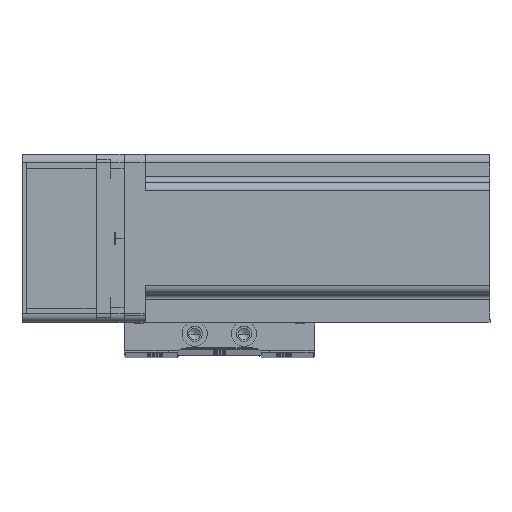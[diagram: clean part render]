
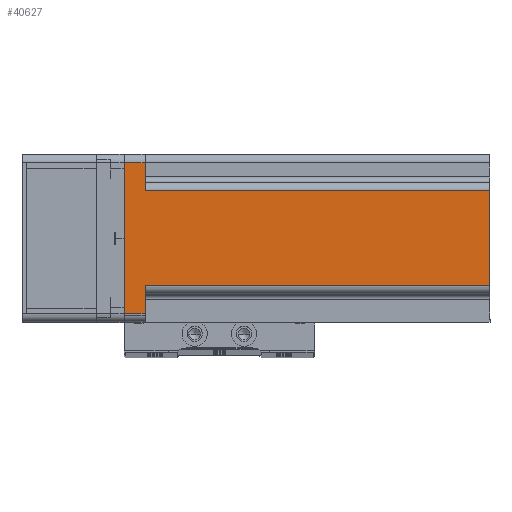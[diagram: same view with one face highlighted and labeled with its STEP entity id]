
A CAD part, top view. The second image highlights one B-rep face of the part: STEP entity #40627.
In plain terms, the highlighted planar face has unit normal (0, 0, 1) as drawn and (0, 1, 0) by its records, which use the part's own axes.
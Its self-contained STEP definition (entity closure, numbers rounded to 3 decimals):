
#2022 = VERTEX_POINT ( 'NONE', #30523 ) ;
#2750 = CARTESIAN_POINT ( 'NONE',  ( 17., 30., 7.5 ) ) ;
#2868 = VERTEX_POINT ( 'NONE', #7440 ) ;
#3265 = VECTOR ( 'NONE', #10019, 1000. ) ;
#3769 = ORIENTED_EDGE ( 'NONE', *, *, #14289, .T. ) ;
#3771 = VECTOR ( 'NONE', #37916, 1000. ) ;
#4331 = CARTESIAN_POINT ( 'NONE',  ( 17., 30., 130.7 ) ) ;
#4347 = DIRECTION ( 'NONE',  ( 0., 0., -1. ) ) ;
#4961 = VECTOR ( 'NONE', #45936, 1000. ) ;
#5092 = EDGE_CURVE ( 'NONE', #2868, #8271, #51672, .T. ) ;
#5146 = LINE ( 'NONE', #29338, #3771 ) ;
#5405 = CARTESIAN_POINT ( 'NONE',  ( -27., 30., 7.5 ) ) ;
#6704 = CARTESIAN_POINT ( 'NONE',  ( 30., 30., 130.7 ) ) ;
#7440 = CARTESIAN_POINT ( 'NONE',  ( 17., 30., 130.7 ) ) ;
#8271 = VERTEX_POINT ( 'NONE', #33251 ) ;
#8448 = EDGE_CURVE ( 'NONE', #36057, #2022, #25840, .T. ) ;
#8627 = CARTESIAN_POINT ( 'NONE',  ( 27., 30., 130.7 ) ) ;
#8777 = ORIENTED_EDGE ( 'NONE', *, *, #15285, .T. ) ;
#8787 = VECTOR ( 'NONE', #38131, 1000. ) ;
#9008 = ORIENTED_EDGE ( 'NONE', *, *, #16088, .T. ) ;
#9413 = EDGE_CURVE ( 'NONE', #36057, #44577, #48696, .T. ) ;
#9846 = ORIENTED_EDGE ( 'NONE', *, *, #13290, .T. ) ;
#10019 = DIRECTION ( 'NONE',  ( 1., 0., 0. ) ) ;
#10965 = DIRECTION ( 'NONE',  ( 1., 0., 0. ) ) ;
#12916 = DIRECTION ( 'NONE',  ( 0., 0., -1. ) ) ;
#13098 = CARTESIAN_POINT ( 'NONE',  ( -17., 30., 7.5 ) ) ;
#13290 = EDGE_CURVE ( 'NONE', #2868, #44577, #48740, .T. ) ;
#13361 = AXIS2_PLACEMENT_3D ( 'NONE', #6704, #36726, #10965 ) ;
#14289 = EDGE_CURVE ( 'NONE', #47938, #8271, #49158, .T. ) ;
#14551 = VECTOR ( 'NONE', #12916, 1000. ) ;
#15285 = EDGE_CURVE ( 'NONE', #34360, #47938, #36151, .T. ) ;
#16088 = EDGE_CURVE ( 'NONE', #16469, #34360, #5146, .T. ) ;
#16469 = VERTEX_POINT ( 'NONE', #19295 ) ;
#19292 = PLANE ( 'NONE',  #13361 ) ;
#19295 = CARTESIAN_POINT ( 'NONE',  ( -27., 30., 0. ) ) ;
#19523 = LINE ( 'NONE', #47991, #42277 ) ;
#20329 = CARTESIAN_POINT ( 'NONE',  ( -17., 30., 130.7 ) ) ;
#22140 = CARTESIAN_POINT ( 'NONE',  ( 20., 30., 7.5 ) ) ;
#22387 = DIRECTION ( 'NONE',  ( -1., 0., 0. ) ) ;
#25840 = LINE ( 'NONE', #8627, #37208 ) ;
#27318 = VECTOR ( 'NONE', #30980, 1000. ) ;
#29338 = CARTESIAN_POINT ( 'NONE',  ( -27., 30., 130.7 ) ) ;
#30523 = CARTESIAN_POINT ( 'NONE',  ( 27., 30., 0. ) ) ;
#30980 = DIRECTION ( 'NONE',  ( -1., 0., 0. ) ) ;
#31678 = CARTESIAN_POINT ( 'NONE',  ( -20., 30., 7.5 ) ) ;
#32960 = ORIENTED_EDGE ( 'NONE', *, *, #38944, .T. ) ;
#33251 = CARTESIAN_POINT ( 'NONE',  ( -17., 30., 130.7 ) ) ;
#33835 = CARTESIAN_POINT ( 'NONE',  ( 30., 30., 130.7 ) ) ;
#34360 = VERTEX_POINT ( 'NONE', #5405 ) ;
#36057 = VERTEX_POINT ( 'NONE', #43045 ) ;
#36151 = LINE ( 'NONE', #31678, #3265 ) ;
#36726 = DIRECTION ( 'NONE',  ( 0., -1., 0. ) ) ;
#37208 = VECTOR ( 'NONE', #4347, 1000. ) ;
#37916 = DIRECTION ( 'NONE',  ( 0., 0., 1. ) ) ;
#38131 = DIRECTION ( 'NONE',  ( -1., 0., 0. ) ) ;
#38944 = EDGE_CURVE ( 'NONE', #2022, #16469, #19523, .T. ) ;
#40627 = ADVANCED_FACE ( 'NONE', ( #54616 ), #19292, .F. ) ;
#42277 = VECTOR ( 'NONE', #22387, 1000. ) ;
#43045 = CARTESIAN_POINT ( 'NONE',  ( 27., 30., 7.5 ) ) ;
#43411 = ORIENTED_EDGE ( 'NONE', *, *, #8448, .T. ) ;
#44361 = ORIENTED_EDGE ( 'NONE', *, *, #5092, .F. ) ;
#44577 = VERTEX_POINT ( 'NONE', #2750 ) ;
#45936 = DIRECTION ( 'NONE',  ( 0., 0., 1. ) ) ;
#47938 = VERTEX_POINT ( 'NONE', #13098 ) ;
#47991 = CARTESIAN_POINT ( 'NONE',  ( 30., 30., 0. ) ) ;
#48696 = LINE ( 'NONE', #22140, #27318 ) ;
#48740 = LINE ( 'NONE', #4331, #14551 ) ;
#49158 = LINE ( 'NONE', #20329, #4961 ) ;
#50395 = ORIENTED_EDGE ( 'NONE', *, *, #9413, .F. ) ;
#51672 = LINE ( 'NONE', #33835, #8787 ) ;
#54374 = EDGE_LOOP ( 'NONE', ( #8777, #3769, #44361, #9846, #50395, #43411, #32960, #9008 ) ) ;
#54616 = FACE_OUTER_BOUND ( 'NONE', #54374, .T. ) ;
